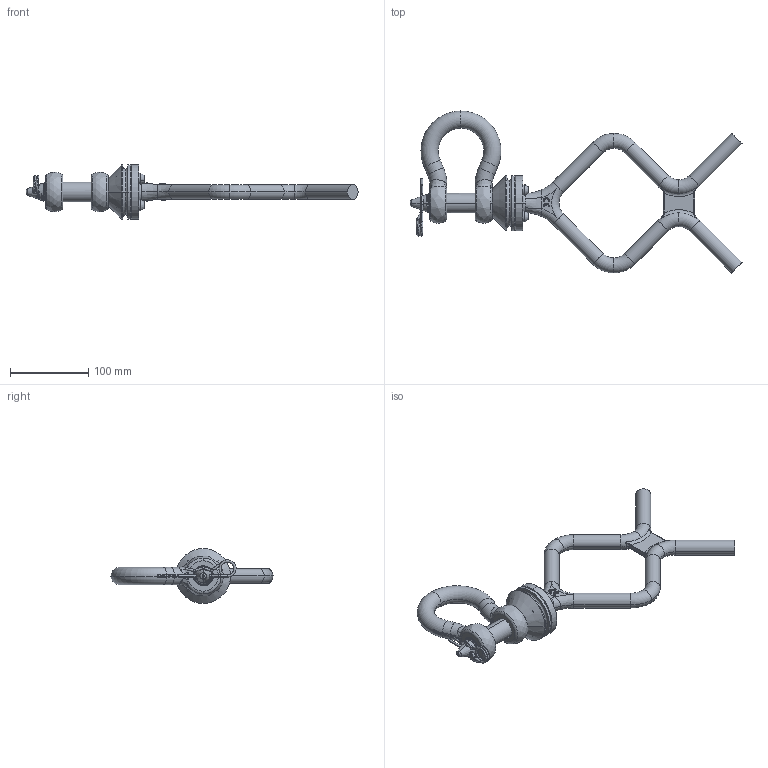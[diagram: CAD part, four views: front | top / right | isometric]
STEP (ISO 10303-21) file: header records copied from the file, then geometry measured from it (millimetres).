
FILE_DESCRIPTION(('STEP AP203'),'1');
FILE_NAME('poghbb22rovrltf.stp','2026-03-11T18:51:33',('TraceParts'),('TraceParts S.A.S.'),'Spatial InterOp 3D',' ',' ');
FILE_SCHEMA(('CONFIG_CONTROL_DESIGN'));
Length unit declared in the file: millimetre
Products named in the file (1): 1
Bounding box: 423.25 x 206.6 x 70 mm (x, y, z)
Volume: 509213.4 mm3; surface area: 112684.8 mm2
Topology: 12 solids, 12 shells, 1013 faces, 2655 edges, 1693 vertices
Faces by surface type: plane 355, bspline 303, cylinder 180, torus 120, cone 55
Entity records: 67581 total; most frequent: CARTESIAN_POINT 44593, ORIENTED_EDGE 5246, DIRECTION 4092, EDGE_CURVE 2623, VERTEX_POINT 1693, AXIS2_PLACEMENT_3D 1533, EDGE_LOOP 1096, LINE 1026
